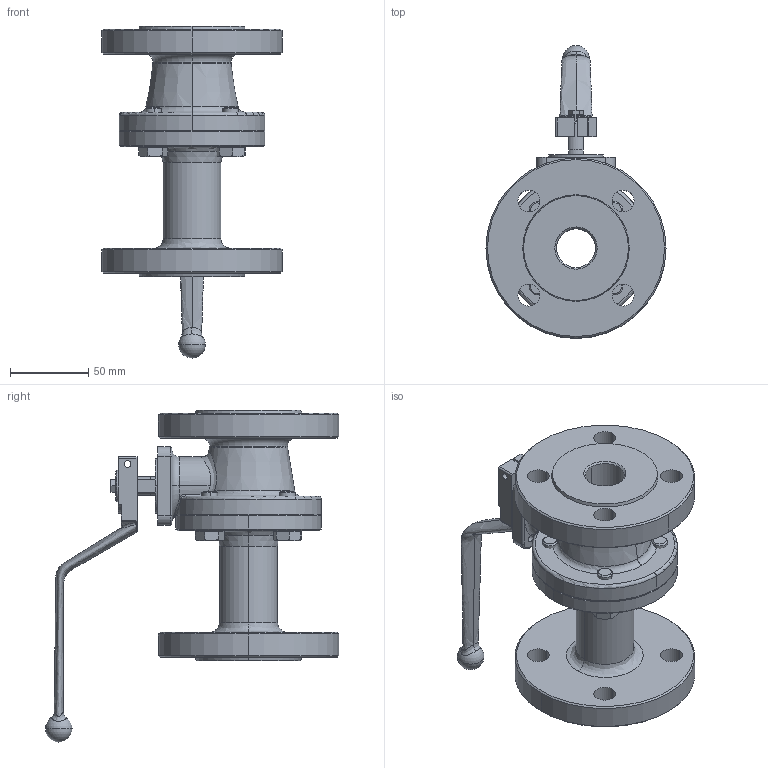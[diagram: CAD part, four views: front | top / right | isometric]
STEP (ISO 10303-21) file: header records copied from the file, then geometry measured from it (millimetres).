
FILE_DESCRIPTION (( 'STEP AP214' ), '1' );
FILE_NAME ('0340025.STEP', '2015-06-15T07:02:10', ( 'pere' ), ( '' ), 'SwSTEP 2.0', 'SolidWorks 2013', '' );
FILE_SCHEMA (( 'AUTOMOTIVE_DESIGN' ));
Length unit declared in the file: millimetre
Products named in the file (8): M015; EPI25Q; 0340025L; 0540025C; 0340025; ISO 4017 - M5 x 12-N_ISO 4017 - M5 x 12-N; 5120_17; ISO 4017 - M10 x 25-C_ISO 4017 - M10 x 25-C
Assembly tree (10 placements, depth 2):
  0340025
    0540025C
    0340025L
    EPI25Q
    M015
    ISO 4017 - M10 x 25-C_ISO 4017 - M10 x 25-C  x4
    5120_17
    ISO 4017 - M5 x 12-N_ISO 4017 - M5 x 12-N
Bounding box: 115 x 187.2 x 212 mm (x, y, z)
Volume: 591276.3 mm3; surface area: 139998.8 mm2
Topology: 10 solids, 10 shells, 454 faces, 1077 edges, 650 vertices
Faces by surface type: cylinder 154, plane 135, cone 102, torus 32, bspline 25, sphere 6
Entity records: 14270 total; most frequent: CARTESIAN_POINT 4980, DIRECTION 1936, ORIENTED_EDGE 1752, EDGE_CURVE 876, AXIS2_PLACEMENT_3D 814, VERTEX_POINT 543, CIRCLE 459, EDGE_LOOP 439
